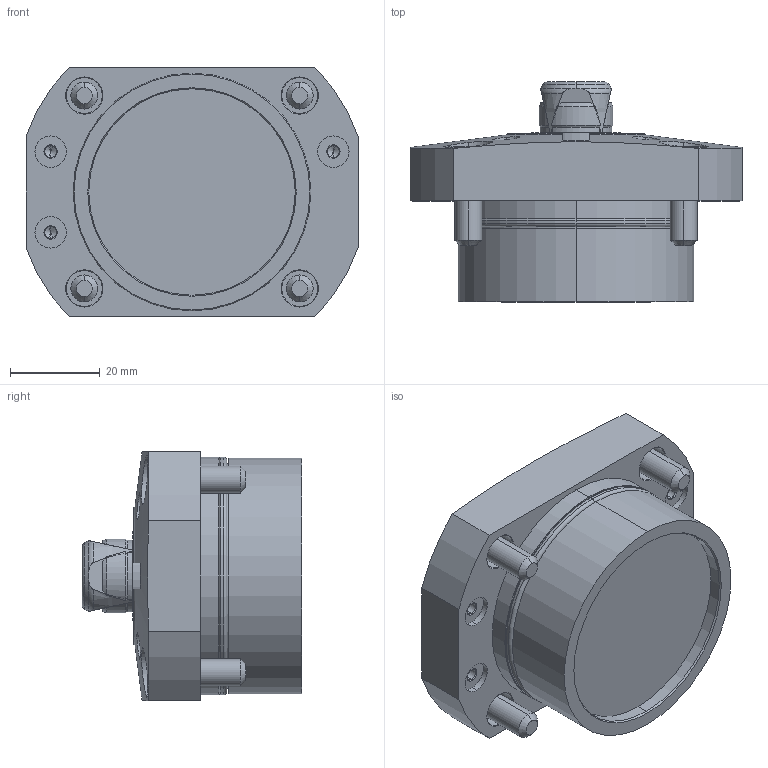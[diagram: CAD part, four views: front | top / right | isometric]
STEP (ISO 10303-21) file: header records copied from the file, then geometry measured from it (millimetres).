
FILE_DESCRIPTION (( 'STEP AP203' ), '1' );
FILE_NAME ('SFH3170.STEP', '2010-11-03T23:25:54', ( ' ' ), ( ' ' ), 'SwSTEP 2.0', 'SolidWorks 2010', '' );
FILE_SCHEMA (( 'CONFIG_CONTROL_DESIGN' ));
Length unit declared in the file: millimetre
Products named in the file (7): SFH3170_套菁轤礁诎蔬晅; 6妏寠晅无倌_M6_16; SFH3170; SFH3_钾堇轤O剌皋晅; φ17_ｽﾘｰﾌﾞ; 冇17_郫霓; 6妏寠晅无倌_M3_10
Assembly tree (14 placements, depth 2):
  SFH3170
    6妏寠晅无倌_M3_10  x6
    6妏寠晅无倌_M6_16  x4
    φ17_ｽﾘｰﾌﾞ
    SFH3170_套菁轤礁诎蔬晅
    SFH3_钾堇轤O剌皋晅
    冇17_郫霓
Bounding box: 74 x 49 x 55.5 mm (x, y, z)
Volume: 96739.1 mm3; surface area: 30391.7 mm2
Topology: 18 solids, 18 shells, 562 faces, 1145 edges, 630 vertices
Faces by surface type: plane 225, cone 182, cylinder 136, torus 19
Entity records: 10494 total; most frequent: CARTESIAN_POINT 2511, DIRECTION 1558, ORIENTED_EDGE 1402, EDGE_CURVE 701, AXIS2_PLACEMENT_3D 650, VERTEX_POINT 430, EDGE_LOOP 359, CIRCLE 319
